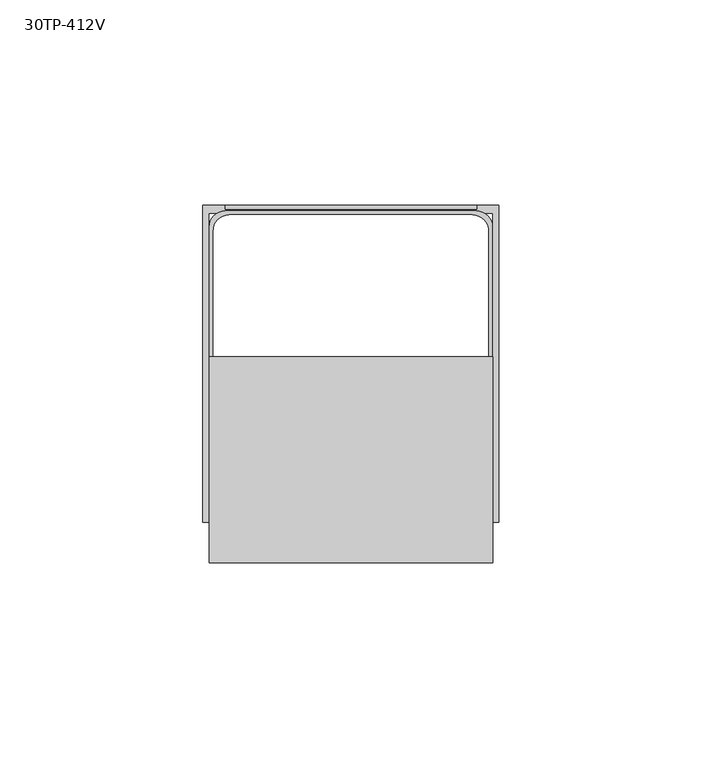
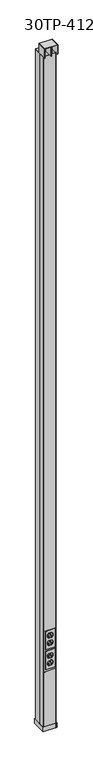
"""IFC4 building model written with IfcOpenShell, lengths in millimetres: proxy geometry, Vertical_Drop_Pole-Wiremold-Tele_Power_Pole-4V : 30TP-412V."""

from ifc_helpers import new_model, si_unit, point, frame, frame_2d, origin, origin_with_axes, place, context, project, spatial, polyline, circle_curve, trimmed, segment, composite_curve, outline, extrude, source, transform, mapped, element, save


def proxy_30tp_412v_0eb8b1ca(model_context):
    return source(origin(), model_context, "Body", "SweptSolid", [
        extrude(outline(polyline([(30.9994141, 3.0842362), (-31.0005859, 3.0842362), (-31.0005859, 4.0842362), (30.9994141, 4.0842362), (30.9994141, 3.0842362)])), frame((0.0, 0.0, 25.4), z_axis=(0.0, 0.0, 1.0), x_axis=(1.0, 0.0, 0.0)), (0.0, 0.0, 1.0), 306.3875),
        extrude(outline(polyline([(-31.0005859, 79.5967362), (30.9994141, 79.5967362), (30.9994141, 78.5967362), (-31.0005859, 78.5967362), (-31.0005859, 79.5967362)])), frame((0.0, 0.0, 25.4), z_axis=(0.0, 0.0, 1.0), x_axis=(1.0, 0.0, 0.0)), (0.0, 0.0, 1.0), 306.3875),
        extrude(outline(polyline([(-0.8191406, -9.1282089), (-0.8191406, 41.6717911), (0.9667969, 41.6717911), (0.9667969, -9.1282089), (-0.8191406, -9.1282089)])), frame((0.0, 0.0, 3784.6), z_axis=(0.0, 0.0, 1.0), x_axis=(1.0, 0.0, 0.0)), (0.0, 0.0, 1.0), 50.8),
        extrude(outline(polyline([(-23.8231255, 40.0842911), (23.9707817, 40.0842911), (23.9707817, 38.4967911), (-23.8231255, 38.4967911), (-23.8231255, 40.0842911)])), frame((0.0, 0.0, 3757.6125), z_axis=(0.0, 0.0, 1.0), x_axis=(1.0, 0.0, 0.0)), (0.0, 0.0, 1.0), 26.9875),
        extrude(outline(polyline([(-33.2636719, 41.6717911), (33.4113281, 41.6717911), (33.4113281, 40.0842911), (-33.2636719, 40.0842911), (-33.2636719, 41.6717911)])), frame((0.0, 0.0, 3784.6), z_axis=(0.0, 0.0, 1.0), x_axis=(1.0, 0.0, 0.0)), (0.0, 0.0, 1.0), 50.8),
        extrude(outline(polyline([(-34.8511719, -9.1282089), (-34.8511719, 41.6717911), (-33.2636719, 41.6717911), (-33.2636719, -9.1282089), (-34.8511719, -9.1282089)])), frame((0.0, 0.0, 3784.6), z_axis=(0.0, 0.0, 1.0), x_axis=(1.0, 0.0, 0.0)), (0.0, 0.0, 1.0), 50.8),
        extrude(outline(polyline([(33.4113281, -9.1282089), (33.4113281, 41.6717911), (34.9988281, 41.6717911), (34.9988281, -9.1282089), (33.4113281, -9.1282089)])), frame((0.0, 0.0, 3784.6), z_axis=(0.0, 0.0, 1.0), x_axis=(1.0, 0.0, 0.0)), (0.0, 0.0, 1.0), 50.8),
        extrude(outline(polyline([(-34.8511719, -9.1282089), (-34.8511719, 41.6717911), (34.9988281, 41.6717911), (34.9988281, -9.1282089), (-34.8511719, -9.1282089)])), frame((0.0, 0.0, 3835.4), z_axis=(0.0, 0.0, 1.0), x_axis=(1.0, 0.0, 0.0)), (0.0, 0.0, 1.0), 1.5875),
        extrude(outline(polyline([(560.1033963, 25.4), (560.1033963, -25.4), (458.5033963, -25.4), (458.5033963, 25.4), (560.1033963, 25.4)]), holes=[composite_curve([segment(polyline([(543.1865995, -7.9339585), (543.1865995, 8.0597711)]), True, "CONTINUOUS"), segment(trimmed(circle_curve(frame_2d((531.1153276, 0.9957546)), 13.9862766), [point((543.1865995, 8.0597711))], [point((531.1153276, 14.9820313))], True, "CARTESIAN"), True, "CONTINUOUS"), segment(polyline([(531.1153276, 14.9820313), (529.0278245, 14.9820313)]), True, "CONTINUOUS"), segment(trimmed(circle_curve(frame_2d((529.0278245, 0.9820313)), 14.0), [point((529.0278245, 14.9820313))], [point((517.191287, 8.4584194))], True, "CARTESIAN"), True, "CONTINUOUS"), segment(polyline([(517.191287, 8.4584194), (517.191287, -8.3446349)]), True, "CONTINUOUS"), segment(trimmed(circle_curve(frame_2d((529.1556013, -0.8801276)), 14.1019036), [point((517.191287, -8.3446349))], [point((529.1556013, -14.9820312))], True, "CARTESIAN"), True, "CONTINUOUS"), segment(polyline([(529.1556013, -14.9820312), (531.0731263, -14.9820312)]), True, "CONTINUOUS"), segment(trimmed(circle_curve(frame_2d((531.0731263, -1.0483243)), 13.933707), [point((531.0731263, -14.9820312))], [point((543.1865995, -7.9339585))], True, "CARTESIAN"), True, "CONTINUOUS")], self_intersect=False), composite_curve([segment(polyline([(501.4155057, -8.6075876), (501.4155057, 8.7168414)]), True, "CONTINUOUS"), segment(trimmed(circle_curve(frame_2d((489.7577624, 1.0035576)), 13.9784736), [point((501.4155057, 8.7168414))], [point((489.7577624, 14.9820313))], True, "CARTESIAN"), True, "CONTINUOUS"), segment(polyline([(489.7577624, 14.9820313), (487.6633022, 14.9820313)]), True, "CONTINUOUS"), segment(trimmed(circle_curve(frame_2d((487.6633022, 0.9731741)), 14.0088572), [point((487.6633022, 14.9820313))], [point((475.4201932, 7.7815778))], True, "CARTESIAN"), True, "CONTINUOUS"), segment(polyline([(475.4201932, 7.7815778), (475.4201932, -7.6594621)]), True, "CONTINUOUS"), segment(trimmed(circle_curve(frame_2d((487.7909059, -0.8712357)), 14.1107955), [point((475.4201932, -7.6594621))], [point((487.7909059, -14.9820312))], True, "CARTESIAN"), True, "CONTINUOUS"), segment(polyline([(487.7909059, -14.9820312), (489.7155811, -14.9820312)]), True, "CONTINUOUS"), segment(trimmed(circle_curve(frame_2d((489.7155811, -1.0575402)), 13.9244911), [point((489.7155811, -14.9820312))], [point((501.4155057, -8.6075876))], True, "CARTESIAN"), True, "CONTINUOUS")], self_intersect=False)]), frame((0.0, -0.0907638, 0.0), z_axis=(0.0, 1.0, 0.0), x_axis=(0.0, 0.0, 1.0)), (0.0, 0.0, 1.0), 3.175),
        extrude(outline(polyline([(447.4405057, 25.4), (447.4405057, -25.4), (345.8405057, -25.4), (345.8405057, 25.4), (447.4405057, 25.4)]), holes=[composite_curve([segment(polyline([(430.5237088, -7.9339585), (430.5237088, 8.0597711)]), True, "CONTINUOUS"), segment(trimmed(circle_curve(frame_2d((418.4524369, 0.9957546)), 13.9862766), [point((430.5237088, 8.0597711))], [point((418.4524369, 14.9820313))], True, "CARTESIAN"), True, "CONTINUOUS"), segment(polyline([(418.4524369, 14.9820313), (416.3649338, 14.9820313)]), True, "CONTINUOUS"), segment(trimmed(circle_curve(frame_2d((416.3649338, 0.9820313)), 14.0), [point((416.3649338, 14.9820313))], [point((404.5283963, 8.4584194))], True, "CARTESIAN"), True, "CONTINUOUS"), segment(polyline([(404.5283963, 8.4584194), (404.5283963, -8.3446349)]), True, "CONTINUOUS"), segment(trimmed(circle_curve(frame_2d((416.4927107, -0.8801276)), 14.1019036), [point((404.5283963, -8.3446349))], [point((416.4927107, -14.9820312))], True, "CARTESIAN"), True, "CONTINUOUS"), segment(polyline([(416.4927107, -14.9820312), (418.4102357, -14.9820312)]), True, "CONTINUOUS"), segment(trimmed(circle_curve(frame_2d((418.4102357, -1.0483243)), 13.933707), [point((418.4102357, -14.9820312))], [point((430.5237088, -7.9339585))], True, "CARTESIAN"), True, "CONTINUOUS")], self_intersect=False), composite_curve([segment(polyline([(388.7526151, -8.6075876), (388.7526151, 8.7168414)]), True, "CONTINUOUS"), segment(trimmed(circle_curve(frame_2d((377.0948718, 1.0035576)), 13.9784736), [point((388.7526151, 8.7168414))], [point((377.0948718, 14.9820313))], True, "CARTESIAN"), True, "CONTINUOUS"), segment(polyline([(377.0948718, 14.9820313), (375.0004116, 14.9820313)]), True, "CONTINUOUS"), segment(trimmed(circle_curve(frame_2d((375.0004116, 0.9731741)), 14.0088572), [point((375.0004116, 14.9820313))], [point((362.7573026, 7.7815778))], True, "CARTESIAN"), True, "CONTINUOUS"), segment(polyline([(362.7573026, 7.7815778), (362.7573026, -7.6594621)]), True, "CONTINUOUS"), segment(trimmed(circle_curve(frame_2d((375.1280153, -0.8712357)), 14.1107955), [point((362.7573026, -7.6594621))], [point((375.1280153, -14.9820312))], True, "CARTESIAN"), True, "CONTINUOUS"), segment(polyline([(375.1280153, -14.9820312), (377.0526905, -14.9820312)]), True, "CONTINUOUS"), segment(trimmed(circle_curve(frame_2d((377.0526905, -1.0575402)), 13.9244911), [point((377.0526905, -14.9820312))], [point((388.7526151, -8.6075876))], True, "CARTESIAN"), True, "CONTINUOUS")], self_intersect=False)]), frame((0.0, -0.0907638, 0.0), z_axis=(0.0, 1.0, 0.0), x_axis=(0.0, 0.0, 1.0)), (0.0, 0.0, 1.0), 3.175),
        extrude(outline(composite_curve([segment(trimmed(circle_curve(frame_2d((530.9960144, -1.041191)), 13.931831), [point((543.1368495, -7.874641))], [point((530.9960144, -14.973022))], False, "CARTESIAN"), True, "CONTINUOUS"), segment(polyline([(530.9960144, -14.973022), (529.0793217, -14.973022)]), True, "CONTINUOUS"), segment(trimmed(circle_curve(frame_2d((529.0793217, -0.8694684)), 14.1035536), [point((529.0793217, -14.973022))], [point((517.1416776, -8.3796533))], False, "CARTESIAN"), True, "CONTINUOUS"), segment(polyline([(517.1416776, -8.3796533), (517.1416776, 8.5109299)]), True, "CONTINUOUS"), segment(trimmed(circle_curve(frame_2d((528.9515186, 0.9894138)), 14.0016266), [point((517.1416776, 8.5109299))], [point((528.9515186, 14.9910405))], False, "CARTESIAN"), True, "CONTINUOUS"), segment(polyline([(528.9515186, 14.9910405), (531.0381621, 14.9910405)]), True, "CONTINUOUS"), segment(trimmed(circle_curve(frame_2d((531.0381621, 1.0065929)), 13.9844475), [point((531.0381621, 14.9910405))], [point((543.1368495, 8.0199042))], False, "CARTESIAN"), True, "CONTINUOUS"), segment(polyline([(543.1368495, 8.0199042), (543.1368495, -7.874641)]), True, "CONTINUOUS")], self_intersect=False), holes=[polyline([(529.2416776, -5.4909908), (521.3416776, -5.4909908), (521.3416776, -7.0909908), (529.2416776, -7.0909908), (529.2416776, -5.4909908)]), polyline([(522.1416776, 5.5090092), (528.4416776, 5.5090092), (528.4416776, 7.1090092), (522.1416776, 7.1090092), (522.1416776, 5.5090092)]), composite_curve([segment(polyline([(539.7368495, 2.4), (536.536709, 2.4)]), True, "CONTINUOUS"), segment(trimmed(circle_curve(frame_2d((536.536709, 0.0)), 2.4), [point((536.536709, 2.4))], [point((536.536709, -2.4))], True, "CARTESIAN"), True, "CONTINUOUS"), segment(polyline([(536.536709, -2.4), (539.7368495, -2.4), (539.7368495, 2.4)]), True, "CONTINUOUS")], self_intersect=False)]), frame((0.0, 1.3967362, 0.0), z_axis=(0.0, 1.0, 0.0), x_axis=(0.0, 0.0, 1.0)), (0.0, 0.0, 1.0), 19.89375),
        extrude(outline(composite_curve([segment(polyline([(501.3658963, 8.6933005), (501.3658963, -8.5651486)]), True, "CONTINUOUS"), segment(trimmed(circle_curve(frame_2d((489.6417726, -1.0436022)), 13.9294199), [point((501.3658963, -8.5651486))], [point((489.6417726, -14.973022))], False, "CARTESIAN"), True, "CONTINUOUS"), segment(polyline([(489.6417726, -14.973022), (487.7134744, -14.973022)]), True, "CONTINUOUS"), segment(trimmed(circle_curve(frame_2d((487.7134744, -0.8665933)), 14.1064287), [point((487.7134744, -14.973022))], [point((475.3707244, -7.6965167))], False, "CARTESIAN"), True, "CONTINUOUS"), segment(polyline([(475.3707244, -7.6965167), (475.3707244, 7.8360196)]), True, "CONTINUOUS"), segment(trimmed(circle_curve(frame_2d((487.5859315, 0.9864964)), 14.004544), [point((475.3707244, 7.8360196))], [point((487.5859315, 14.9910405))], False, "CARTESIAN"), True, "CONTINUOUS"), segment(polyline([(487.5859315, 14.9910405), (489.6840838, 14.9910405)]), True, "CONTINUOUS"), segment(trimmed(circle_curve(frame_2d((489.6840838, 1.0077484)), 13.983292), [point((489.6840838, 14.9910405))], [point((501.3658963, 8.6933005))], False, "CARTESIAN"), True, "CONTINUOUS")], self_intersect=False), holes=[polyline([(487.4707244, -5.4909908), (479.5707244, -5.4909908), (479.5707244, -7.0909908), (487.4707244, -7.0909908), (487.4707244, -5.4909908)]), polyline([(480.3707244, 5.5090092), (486.6707244, 5.5090092), (486.6707244, 7.1090092), (480.3707244, 7.1090092), (480.3707244, 5.5090092)]), composite_curve([segment(polyline([(497.9657558, 2.4), (494.7657558, 2.4)]), True, "CONTINUOUS"), segment(trimmed(circle_curve(frame_2d((494.7657558, 0.0)), 2.4), [point((494.7657558, 2.4))], [point((494.7657558, -2.4))], True, "CARTESIAN"), True, "CONTINUOUS"), segment(polyline([(494.7657558, -2.4), (497.9657558, -2.4), (497.9657558, 2.4)]), True, "CONTINUOUS")], self_intersect=False)]), frame((0.0, 1.3967362, 0.0), z_axis=(0.0, 1.0, 0.0), x_axis=(0.0, 0.0, 1.0)), (0.0, 0.0, 1.0), 19.89375),
        extrude(outline(composite_curve([segment(trimmed(circle_curve(frame_2d((418.3827332, -1.041191)), 13.931831), [point((430.5235683, -7.874641))], [point((418.3827332, -14.973022))], False, "CARTESIAN"), True, "CONTINUOUS"), segment(polyline([(418.3827332, -14.973022), (416.4660405, -14.973022)]), True, "CONTINUOUS"), segment(trimmed(circle_curve(frame_2d((416.4660405, -0.8694684)), 14.1035536), [point((416.4660405, -14.973022))], [point((404.5283963, -8.3796533))], False, "CARTESIAN"), True, "CONTINUOUS"), segment(polyline([(404.5283963, -8.3796533), (404.5283963, 8.5109299)]), True, "CONTINUOUS"), segment(trimmed(circle_curve(frame_2d((416.3382373, 0.9894138)), 14.0016266), [point((404.5283963, 8.5109299))], [point((416.3382373, 14.9910405))], False, "CARTESIAN"), True, "CONTINUOUS"), segment(polyline([(416.3382373, 14.9910405), (418.4248808, 14.9910405)]), True, "CONTINUOUS"), segment(trimmed(circle_curve(frame_2d((418.4248808, 1.0065929)), 13.9844475), [point((418.4248808, 14.9910405))], [point((430.5235683, 8.0199042))], False, "CARTESIAN"), True, "CONTINUOUS"), segment(polyline([(430.5235683, 8.0199042), (430.5235683, -7.874641)]), True, "CONTINUOUS")], self_intersect=False), holes=[polyline([(416.6283963, -5.4909908), (408.7283963, -5.4909908), (408.7283963, -7.0909908), (416.6283963, -7.0909908), (416.6283963, -5.4909908)]), polyline([(409.5283963, 5.5090092), (415.8283963, 5.5090092), (415.8283963, 7.1090092), (409.5283963, 7.1090092), (409.5283963, 5.5090092)]), composite_curve([segment(polyline([(427.1235683, 2.4), (423.9234278, 2.4)]), True, "CONTINUOUS"), segment(trimmed(circle_curve(frame_2d((423.9234278, 0.0)), 2.4), [point((423.9234278, 2.4))], [point((423.9234278, -2.4))], True, "CARTESIAN"), True, "CONTINUOUS"), segment(polyline([(423.9234278, -2.4), (427.1235683, -2.4), (427.1235683, 2.4)]), True, "CONTINUOUS")], self_intersect=False)]), frame((0.0, 1.3967362, 0.0), z_axis=(0.0, 1.0, 0.0), x_axis=(0.0, 0.0, 1.0)), (0.0, 0.0, 1.0), 19.89375),
        extrude(outline(composite_curve([segment(polyline([(388.7526151, 8.6933005), (388.7526151, -8.5651486)]), True, "CONTINUOUS"), segment(trimmed(circle_curve(frame_2d((377.0284914, -1.0436022)), 13.9294199), [point((388.7526151, -8.5651486))], [point((377.0284914, -14.973022))], False, "CARTESIAN"), True, "CONTINUOUS"), segment(polyline([(377.0284914, -14.973022), (375.1001931, -14.973022)]), True, "CONTINUOUS"), segment(trimmed(circle_curve(frame_2d((375.1001931, -0.8665933)), 14.1064287), [point((375.1001931, -14.973022))], [point((362.7574431, -7.6965167))], False, "CARTESIAN"), True, "CONTINUOUS"), segment(polyline([(362.7574431, -7.6965167), (362.7574431, 7.8360196)]), True, "CONTINUOUS"), segment(trimmed(circle_curve(frame_2d((374.9726503, 0.9864964)), 14.004544), [point((362.7574431, 7.8360196))], [point((374.9726503, 14.9910405))], False, "CARTESIAN"), True, "CONTINUOUS"), segment(polyline([(374.9726503, 14.9910405), (377.0708025, 14.9910405)]), True, "CONTINUOUS"), segment(trimmed(circle_curve(frame_2d((377.0708025, 1.0077484)), 13.983292), [point((377.0708025, 14.9910405))], [point((388.7526151, 8.6933005))], False, "CARTESIAN"), True, "CONTINUOUS")], self_intersect=False), holes=[polyline([(374.8574431, -5.4909908), (366.9574431, -5.4909908), (366.9574431, -7.0909908), (374.8574431, -7.0909908), (374.8574431, -5.4909908)]), polyline([(367.7574431, 5.5090092), (374.0574431, 5.5090092), (374.0574431, 7.1090092), (367.7574431, 7.1090092), (367.7574431, 5.5090092)]), composite_curve([segment(polyline([(385.3524745, 2.4), (382.1524745, 2.4)]), True, "CONTINUOUS"), segment(trimmed(circle_curve(frame_2d((382.1524745, 0.0)), 2.4), [point((382.1524745, 2.4))], [point((382.1524745, -2.4))], True, "CARTESIAN"), True, "CONTINUOUS"), segment(polyline([(382.1524745, -2.4), (385.3524745, -2.4), (385.3524745, 2.4)]), True, "CONTINUOUS")], self_intersect=False)]), frame((0.0, 1.3967362, 0.0), z_axis=(0.0, 1.0, 0.0), x_axis=(0.0, 0.0, 1.0)), (0.0, 0.0, 1.0), 19.89375),
        extrude(outline(polyline([(-36.5125, 1.4967362), (-36.5125, 79.5967362), (36.5125, 79.5967362), (36.5125, 1.4967362), (-36.5125, 1.4967362)]), holes=[polyline([(34.925, 77.5967362), (-34.925, 77.5967362), (-34.925, 3.0842362), (34.925, 3.0842362), (34.925, 77.5967362)])]), origin_with_axes(), (0.0, 0.0, 1.0), 25.4),
        extrude(outline(composite_curve([segment(polyline([(-34.925, 39.4967362), (-34.925, 73.5967362)]), True, "CONTINUOUS"), segment(trimmed(circle_curve(frame_2d((-30.925, 73.5967362)), 4.0), [point((-34.925, 73.5967362))], [point((-30.925, 77.5967362))], False, "CARTESIAN"), True, "CONTINUOUS"), segment(polyline([(-30.925, 77.5967362), (30.925, 77.5967362)]), True, "CONTINUOUS"), segment(trimmed(circle_curve(frame_2d((30.925, 73.5967362)), 4.0), [point((30.925, 77.5967362))], [point((34.925, 73.5967362))], False, "CARTESIAN"), True, "CONTINUOUS"), segment(polyline([(34.925, 73.5967362), (34.925, 39.4967362), (-34.925, 39.4967362)]), True, "CONTINUOUS")], self_intersect=False), holes=[composite_curve([segment(trimmed(circle_curve(frame_2d((29.925, 72.5967362)), 4.0), [point((33.925, 72.5967362))], [point((29.925, 76.5967362))], True, "CARTESIAN"), True, "CONTINUOUS"), segment(polyline([(29.925, 76.5967362), (-29.925, 76.5967362)]), True, "CONTINUOUS"), segment(trimmed(circle_curve(frame_2d((-29.925, 72.5967362)), 4.0), [point((-29.925, 76.5967362))], [point((-33.925, 72.5967362))], True, "CARTESIAN"), True, "CONTINUOUS"), segment(polyline([(-33.925, 72.5967362), (-33.925, 40.4967362), (33.925, 40.4967362), (33.925, 72.5967362)]), True, "CONTINUOUS")], self_intersect=False)]), origin_with_axes(), (0.0, 0.0, 1.0), 3784.6),
        extrude(outline(composite_curve([segment(polyline([(34.925, 39.4967362), (34.925, 7.0842362)]), True, "CONTINUOUS"), segment(trimmed(circle_curve(frame_2d((30.925, 7.0842362)), 4.0), [point((34.925, 7.0842362))], [point((30.925, 3.0842362))], False, "CARTESIAN"), True, "CONTINUOUS"), segment(polyline([(30.925, 3.0842362), (-30.925, 3.0842362)]), True, "CONTINUOUS"), segment(trimmed(circle_curve(frame_2d((-30.925, 7.0842362)), 4.0), [point((-30.925, 3.0842362))], [point((-34.925, 7.0842362))], False, "CARTESIAN"), True, "CONTINUOUS"), segment(polyline([(-34.925, 7.0842362), (-34.925, 39.4967362), (34.925, 39.4967362)]), True, "CONTINUOUS")], self_intersect=False), holes=[composite_curve([segment(trimmed(circle_curve(frame_2d((-29.925, 8.0842362)), 4.0), [point((-33.925, 8.0842362))], [point((-29.925, 4.0842362))], True, "CARTESIAN"), True, "CONTINUOUS"), segment(polyline([(-29.925, 4.0842362), (29.925, 4.0842362)]), True, "CONTINUOUS"), segment(trimmed(circle_curve(frame_2d((29.925, 8.0842362)), 4.0), [point((29.925, 4.0842362))], [point((33.925, 8.0842362))], True, "CARTESIAN"), True, "CONTINUOUS"), segment(polyline([(33.925, 8.0842362), (33.925, 38.4967362), (-33.925, 38.4967362), (-33.925, 8.0842362)]), True, "CONTINUOUS")], self_intersect=False)]), origin_with_axes(), (0.0, 0.0, 1.0), 3784.6),
    ])


if __name__ == "__main__":
    model = new_model("IFC4")
    model_context = context("Model", 3, world=origin())
    ifc_project = project(units=[si_unit("LENGTHUNIT", "METRE", prefix="MILLI")], contexts=[model_context])
    site = spatial("IfcSite", under=ifc_project)
    building = spatial("IfcBuilding", under=site)
    placement = place(None, origin())
    proxy_30tp_412v_shape = proxy_30tp_412v_0eb8b1ca(model_context)
    element("IfcBuildingElementProxy", 1, Name="Vertical_Drop_Pole-Wiremold-Tele_Power_Pole-4V : 30TP-412V", ObjectType="Vertical_Drop_Pole-Wiremold-Tele_Power_Pole-4V : 30TP-412V", at=placement, inside=building, context=model_context, shape_type="MappedRepresentation", body=[
        mapped(proxy_30tp_412v_shape, transform((0.0, 0.0, 0.0), x_axis=(1.0, 0.0, 0.0), y_axis=(0.0, 1.0, 0.0), z_axis=(0.0, 0.0, 1.0))),
    ])
    save(model, "model.ifc")
